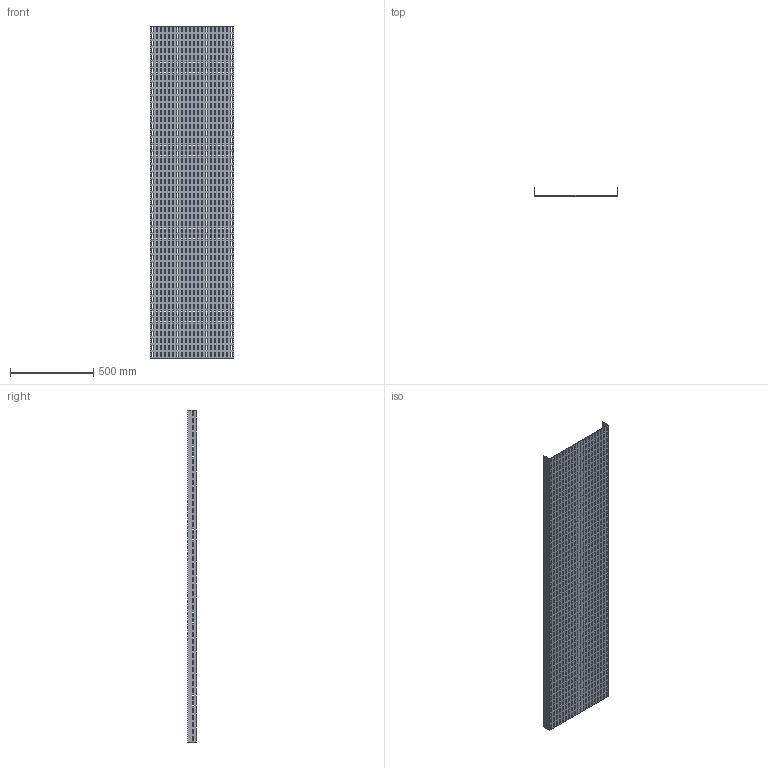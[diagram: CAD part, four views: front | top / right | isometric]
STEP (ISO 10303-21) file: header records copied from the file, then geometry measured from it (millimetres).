
FILE_DESCRIPTION (( 'STEP AP214' ), '1' );
FILE_NAME ('01F2B500.step', '2025-02-21T13:18:26', ( '' ), ( '' ), 'SwSTEP 2.0', 'SolidWorks 2023', '' );
FILE_SCHEMA (( 'AUTOMOTIVE_DESIGN' ));
Length unit declared in the file: millimetre
Products named in the file (1): 01F2B500
Bounding box: 504 x 52 x 2000 mm (x, y, z)
Volume: 3560200 mm3; surface area: 2289151 mm2
Topology: 1 solids, 1 shells, 4234 faces, 12696 edges, 8464 vertices
Faces by surface type: plane 4234
Entity records: 143927 total; most frequent: CARTESIAN_POINT 25395, ORIENTED_EDGE 25392, DIRECTION 21166, LINE 12696, EDGE_CURVE 12696, VECTOR 12696, VERTEX_POINT 8464, EDGE_LOOP 6346
